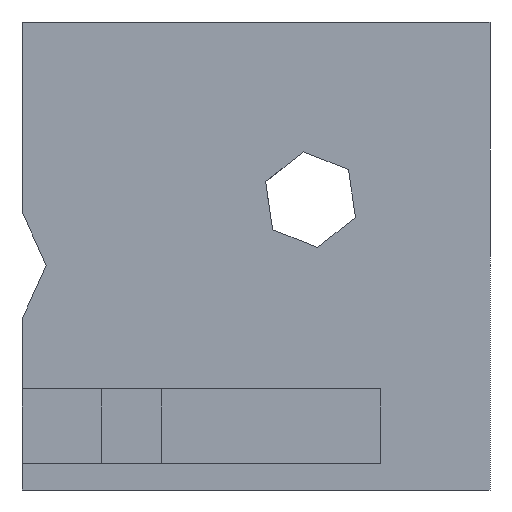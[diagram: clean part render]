
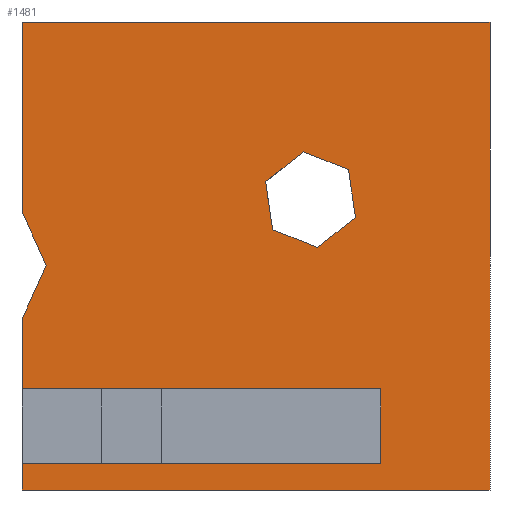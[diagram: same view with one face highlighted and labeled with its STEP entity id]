
A CAD part, front view. The second image highlights one B-rep face of the part: STEP entity #1481.
In plain terms, the highlighted planar face has unit normal (0, -1, 0).
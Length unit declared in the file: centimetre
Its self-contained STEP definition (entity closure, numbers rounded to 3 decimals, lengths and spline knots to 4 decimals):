
#5 = LINE ( 'NONE', #469, #1152 ) ;
#27 = ORIENTED_EDGE ( 'NONE', *, *, #133, .F. ) ;
#32 = DIRECTION ( 'NONE',  ( 0., 0., 1. ) ) ;
#40 = LINE ( 'NONE', #767, #126 ) ;
#49 = VECTOR ( 'NONE', #620, 100. ) ;
#52 = LINE ( 'NONE', #307, #581 ) ;
#76 = VECTOR ( 'NONE', #120, 100. ) ;
#81 = ORIENTED_EDGE ( 'NONE', *, *, #830, .F. ) ;
#99 = LINE ( 'NONE', #551, #508 ) ;
#101 = VERTEX_POINT ( 'NONE', #799 ) ;
#106 = VECTOR ( 'NONE', #455, 100. ) ;
#117 = ORIENTED_EDGE ( 'NONE', *, *, #652, .F. ) ;
#118 = EDGE_CURVE ( 'NONE', #787, #1215, #1136, .T. ) ;
#119 = DIRECTION ( 'NONE',  ( 0., 1., 0. ) ) ;
#120 = DIRECTION ( 'NONE',  ( -1., 0., 0. ) ) ;
#125 = CARTESIAN_POINT ( 'NONE',  ( 766.4364, 0., 215.9417 ) ) ;
#126 = VECTOR ( 'NONE', #1164, 100. ) ;
#133 = EDGE_CURVE ( 'NONE', #900, #515, #99, .T. ) ;
#142 = VECTOR ( 'NONE', #701, 100. ) ;
#149 = EDGE_CURVE ( 'NONE', #520, #612, #162, .T. ) ;
#162 = LINE ( 'NONE', #368, #442 ) ;
#165 = ORIENTED_EDGE ( 'NONE', *, *, #945, .F. ) ;
#173 = LINE ( 'NONE', #1437, #995 ) ;
#174 = ORIENTED_EDGE ( 'NONE', *, *, #772, .F. ) ;
#183 = LINE ( 'NONE', #779, #1398 ) ;
#188 = VERTEX_POINT ( 'NONE', #390 ) ;
#197 = DIRECTION ( 'NONE',  ( 0.412, 0., 0.911 ) ) ;
#224 = VECTOR ( 'NONE', #899, 100. ) ;
#243 = FACE_OUTER_BOUND ( 'NONE', #888, .T. ) ;
#252 = CARTESIAN_POINT ( 'NONE',  ( 0., 0., 1000. ) ) ;
#263 = EDGE_CURVE ( 'NONE', #612, #1335, #52, .T. ) ;
#271 = VECTOR ( 'NONE', #1198, 100. ) ;
#286 = ORIENTED_EDGE ( 'NONE', *, *, #630, .T. ) ;
#305 = VERTEX_POINT ( 'NONE', #458 ) ;
#307 = CARTESIAN_POINT ( 'NONE',  ( 535.4942, 0., 556.3452 ) ) ;
#321 = VECTOR ( 'NONE', #681, 100. ) ;
#329 = EDGE_CURVE ( 'NONE', #188, #998, #1252, .T. ) ;
#343 = VERTEX_POINT ( 'NONE', #1370 ) ;
#360 = CARTESIAN_POINT ( 'NONE',  ( 0., 0., 1000. ) ) ;
#368 = CARTESIAN_POINT ( 'NONE',  ( 520.447, 0., 658.5412 ) ) ;
#390 = CARTESIAN_POINT ( 'NONE',  ( 766.4364, 0., 57.2724 ) ) ;
#402 = EDGE_LOOP ( 'NONE', ( #165, #444, #1122, #424, #1435, #81 ) ) ;
#424 = ORIENTED_EDGE ( 'NONE', *, *, #263, .F. ) ;
#425 = EDGE_CURVE ( 'NONE', #459, #1233, #549, .T. ) ;
#440 = CARTESIAN_POINT ( 'NONE',  ( 766.4364, 0., 215.9417 ) ) ;
#442 = VECTOR ( 'NONE', #843, 100. ) ;
#444 = ORIENTED_EDGE ( 'NONE', *, *, #1163, .F. ) ;
#448 = EDGE_CURVE ( 'NONE', #1454, #1233, #1385, .T. ) ;
#455 = DIRECTION ( 'NONE',  ( -0.93, 0., 0.369 ) ) ;
#458 = CARTESIAN_POINT ( 'NONE',  ( 51.8515, 0., 479.8473 ) ) ;
#459 = VERTEX_POINT ( 'NONE', #606 ) ;
#466 = CARTESIAN_POINT ( 'NONE',  ( 766.4364, 0., 57.2724 ) ) ;
#469 = CARTESIAN_POINT ( 'NONE',  ( 712.5028, 0., 582.4077 ) ) ;
#484 = CARTESIAN_POINT ( 'NONE',  ( 520.447, 0., 658.5412 ) ) ;
#508 = VECTOR ( 'NONE', #1255, 100. ) ;
#515 = VERTEX_POINT ( 'NONE', #584 ) ;
#520 = VERTEX_POINT ( 'NONE', #484 ) ;
#549 = LINE ( 'NONE', #1021, #576 ) ;
#550 = ORIENTED_EDGE ( 'NONE', *, *, #1082, .T. ) ;
#551 = CARTESIAN_POINT ( 'NONE',  ( 0., 0., 1000. ) ) ;
#576 = VECTOR ( 'NONE', #1357, 100. ) ;
#577 = FACE_BOUND ( 'NONE', #402, .T. ) ;
#581 = VECTOR ( 'NONE', #1318, 100. ) ;
#584 = CARTESIAN_POINT ( 'NONE',  ( 1000., 0., 1000. ) ) ;
#606 = CARTESIAN_POINT ( 'NONE',  ( 0., 0., 365.0654 ) ) ;
#612 = VERTEX_POINT ( 'NONE', #706 ) ;
#620 = DIRECTION ( 'NONE',  ( -0.412, 0., 0.911 ) ) ;
#627 = DIRECTION ( 'NONE',  ( -0.784, 0., -0.621 ) ) ;
#630 = EDGE_CURVE ( 'NONE', #998, #787, #841, .T. ) ;
#635 = LINE ( 'NONE', #1322, #49 ) ;
#652 = EDGE_CURVE ( 'NONE', #515, #1215, #40, .T. ) ;
#681 = DIRECTION ( 'NONE',  ( 1., 0., 0. ) ) ;
#689 = CARTESIAN_POINT ( 'NONE',  ( 0., 0., 594.6291 ) ) ;
#701 = DIRECTION ( 'NONE',  ( 0., 0., -1. ) ) ;
#706 = CARTESIAN_POINT ( 'NONE',  ( 535.4942, 0., 556.3452 ) ) ;
#734 = ORIENTED_EDGE ( 'NONE', *, *, #448, .F. ) ;
#738 = ORIENTED_EDGE ( 'NONE', *, *, #329, .T. ) ;
#767 = CARTESIAN_POINT ( 'NONE',  ( 1000., 0., 1000. ) ) ;
#772 = EDGE_CURVE ( 'NONE', #305, #1156, #635, .T. ) ;
#779 = CARTESIAN_POINT ( 'NONE',  ( 0., 0., 365.0654 ) ) ;
#787 = VERTEX_POINT ( 'NONE', #881 ) ;
#799 = CARTESIAN_POINT ( 'NONE',  ( 697.4557, 0., 684.6037 ) ) ;
#803 = CARTESIAN_POINT ( 'NONE',  ( 697.4557, 0., 684.6037 ) ) ;
#830 = EDGE_CURVE ( 'NONE', #343, #520, #173, .T. ) ;
#841 = LINE ( 'NONE', #252, #271 ) ;
#843 = DIRECTION ( 'NONE',  ( 0.146, 0., -0.989 ) ) ;
#881 = CARTESIAN_POINT ( 'NONE',  ( 0., 0., 0. ) ) ;
#887 = VECTOR ( 'NONE', #907, 100. ) ;
#888 = EDGE_LOOP ( 'NONE', ( #1315, #738, #286, #1338, #117, #27, #550, #174, #1445, #1135, #734 ) ) ;
#899 = DIRECTION ( 'NONE',  ( 0.784, 0., 0.621 ) ) ;
#900 = VERTEX_POINT ( 'NONE', #1036 ) ;
#907 = DIRECTION ( 'NONE',  ( 0., 0., 1. ) ) ;
#926 = CARTESIAN_POINT ( 'NONE',  ( 0., 0., 215.9417 ) ) ;
#929 = CARTESIAN_POINT ( 'NONE',  ( 631.5221, 0., 518.2785 ) ) ;
#945 = EDGE_CURVE ( 'NONE', #101, #343, #1453, .T. ) ;
#946 = CARTESIAN_POINT ( 'NONE',  ( 1000., 0., 0. ) ) ;
#950 = DIRECTION ( 'NONE',  ( -1., 0., 0. ) ) ;
#969 = EDGE_CURVE ( 'NONE', #1335, #1221, #1461, .T. ) ;
#995 = VECTOR ( 'NONE', #627, 100. ) ;
#998 = VERTEX_POINT ( 'NONE', #1189 ) ;
#1010 = CARTESIAN_POINT ( 'NONE',  ( 766.4364, 0., 57.2724 ) ) ;
#1021 = CARTESIAN_POINT ( 'NONE',  ( 0., 0., 1000. ) ) ;
#1026 = LINE ( 'NONE', #1010, #887 ) ;
#1035 = CARTESIAN_POINT ( 'NONE',  ( 712.5028, 0., 582.4077 ) ) ;
#1036 = CARTESIAN_POINT ( 'NONE',  ( 0., 0., 1000. ) ) ;
#1046 = PLANE ( 'NONE',  #1474 ) ;
#1051 = LINE ( 'NONE', #1383, #142 ) ;
#1082 = EDGE_CURVE ( 'NONE', #900, #1156, #1051, .T. ) ;
#1121 = CARTESIAN_POINT ( 'NONE',  ( 631.5221, 0., 518.2785 ) ) ;
#1122 = ORIENTED_EDGE ( 'NONE', *, *, #969, .F. ) ;
#1134 = EDGE_CURVE ( 'NONE', #459, #305, #183, .T. ) ;
#1135 = ORIENTED_EDGE ( 'NONE', *, *, #425, .T. ) ;
#1136 = LINE ( 'NONE', #1360, #321 ) ;
#1152 = VECTOR ( 'NONE', #1452, 100. ) ;
#1156 = VERTEX_POINT ( 'NONE', #689 ) ;
#1163 = EDGE_CURVE ( 'NONE', #1221, #101, #5, .T. ) ;
#1164 = DIRECTION ( 'NONE',  ( 0., 0., -1. ) ) ;
#1189 = CARTESIAN_POINT ( 'NONE',  ( 0., 0., 57.2724 ) ) ;
#1195 = EDGE_CURVE ( 'NONE', #188, #1454, #1026, .T. ) ;
#1198 = DIRECTION ( 'NONE',  ( 0., 0., -1. ) ) ;
#1211 = VECTOR ( 'NONE', #950, 100. ) ;
#1215 = VERTEX_POINT ( 'NONE', #946 ) ;
#1221 = VERTEX_POINT ( 'NONE', #1035 ) ;
#1233 = VERTEX_POINT ( 'NONE', #926 ) ;
#1252 = LINE ( 'NONE', #466, #76 ) ;
#1255 = DIRECTION ( 'NONE',  ( 1., 0., 0. ) ) ;
#1315 = ORIENTED_EDGE ( 'NONE', *, *, #1195, .F. ) ;
#1318 = DIRECTION ( 'NONE',  ( 0.93, 0., -0.369 ) ) ;
#1322 = CARTESIAN_POINT ( 'NONE',  ( 51.8515, 0., 479.8473 ) ) ;
#1335 = VERTEX_POINT ( 'NONE', #929 ) ;
#1338 = ORIENTED_EDGE ( 'NONE', *, *, #118, .T. ) ;
#1357 = DIRECTION ( 'NONE',  ( 0., 0., -1. ) ) ;
#1360 = CARTESIAN_POINT ( 'NONE',  ( 0., 0., 0. ) ) ;
#1370 = CARTESIAN_POINT ( 'NONE',  ( 601.4278, 0., 722.6704 ) ) ;
#1383 = CARTESIAN_POINT ( 'NONE',  ( 0., 0., 1000. ) ) ;
#1385 = LINE ( 'NONE', #125, #1211 ) ;
#1398 = VECTOR ( 'NONE', #197, 100. ) ;
#1435 = ORIENTED_EDGE ( 'NONE', *, *, #149, .F. ) ;
#1437 = CARTESIAN_POINT ( 'NONE',  ( 601.4278, 0., 722.6704 ) ) ;
#1445 = ORIENTED_EDGE ( 'NONE', *, *, #1134, .F. ) ;
#1452 = DIRECTION ( 'NONE',  ( -0.146, 0., 0.989 ) ) ;
#1453 = LINE ( 'NONE', #803, #106 ) ;
#1454 = VERTEX_POINT ( 'NONE', #440 ) ;
#1461 = LINE ( 'NONE', #1121, #224 ) ;
#1474 = AXIS2_PLACEMENT_3D ( 'NONE', #360, #119, #32 ) ;
#1481 = ADVANCED_FACE ( 'NONE', ( #577, #243 ), #1046, .F. ) ;
